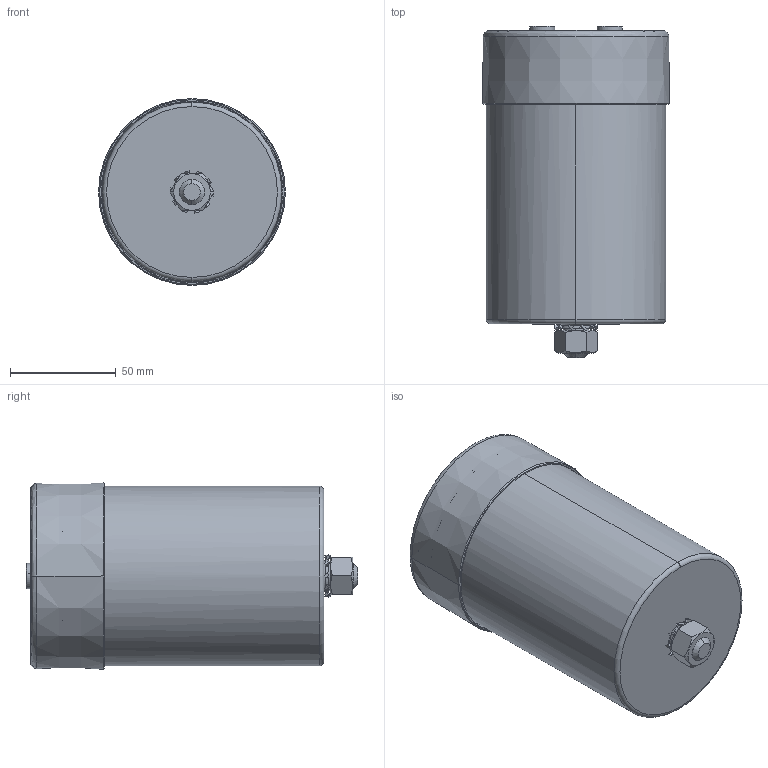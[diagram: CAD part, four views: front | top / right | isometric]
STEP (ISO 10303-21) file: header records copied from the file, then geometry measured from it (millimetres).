
FILE_DESCRIPTION (( 'STEP AP203' ), '1' );
FILE_NAME ('B25620Cx_85x139_141.STEP', '2021-07-01T02:33:33', ( '' ), ( '' ), 'SwSTEP 2.0', 'SolidWorks 2017', '' );
FILE_SCHEMA (( 'CONFIG_CONTROL_DESIGN' ));
Length unit declared in the file: millimetre
Products named in the file (1): B25620Cx_85x139_141
Bounding box: 88.5 x 157 x 88.5 mm (x, y, z)
Volume: 78898.7 mm3; surface area: 123272.5 mm2
Topology: 4 solids, 7 shells, 401 faces, 1027 edges, 642 vertices
Faces by surface type: bspline 124, cylinder 114, plane 97, cone 52, torus 14
Entity records: 15845 total; most frequent: CARTESIAN_POINT 6858, ORIENTED_EDGE 2026, DIRECTION 1621, EDGE_CURVE 1013, AXIS2_PLACEMENT_3D 642, VERTEX_POINT 642, EDGE_LOOP 443, FACE_OUTER_BOUND 401
